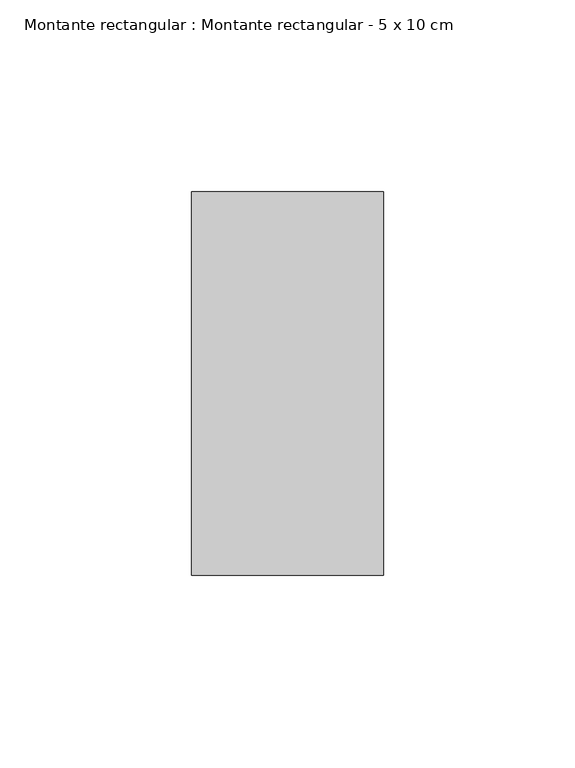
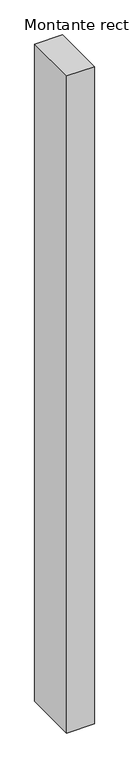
"""IFC4 building model written with IfcOpenShell, lengths in millimetres: member geometry, Montante rectangular : Montante rectangular - 5 x 10 cm."""

from ifc_helpers import new_model, si_unit, frame, origin, place, context, project, spatial, polyline, outline, extrude, source, transform, mapped, element, save


def montante_rectangular_montante_rectangular_5_x_10_cm_8dfd3cad(model_context):
    return source(origin(), model_context, "Body", "SweptSolid", [
        extrude(outline(polyline([(25.0, 50.0), (25.0, -50.0), (-25.0, -50.0), (-25.0, 50.0), (25.0, 50.0)])), frame((0.0, 0.0, -1255.0), z_axis=(0.0, 0.0, 1.0), x_axis=(1.0, 0.0, 0.0)), (0.0, 0.0, 1.0), 1255.0),
    ])


if __name__ == "__main__":
    model = new_model("IFC4")
    model_context = context("Model", 3, world=origin())
    ifc_project = project(units=[si_unit("LENGTHUNIT", "METRE", prefix="MILLI")], contexts=[model_context])
    site = spatial("IfcSite", under=ifc_project)
    building = spatial("IfcBuilding", under=site)
    placement = place(None, origin())
    montante_rectangular_montante_rectangular_5_x_10_cm_shape = montante_rectangular_montante_rectangular_5_x_10_cm_8dfd3cad(model_context)
    element("IfcMember", 1, ObjectType="Montante rectangular : Montante rectangular - 5 x 10 cm", at=placement, inside=building, context=model_context, shape_type="MappedRepresentation", body=[
        mapped(montante_rectangular_montante_rectangular_5_x_10_cm_shape, transform((0.0, 0.0, 0.0), x_axis=(1.0, 0.0, 0.0), y_axis=(0.0, 1.0, 0.0), z_axis=(0.0, 0.0, 1.0))),
    ])
    save(model, "model.ifc")
